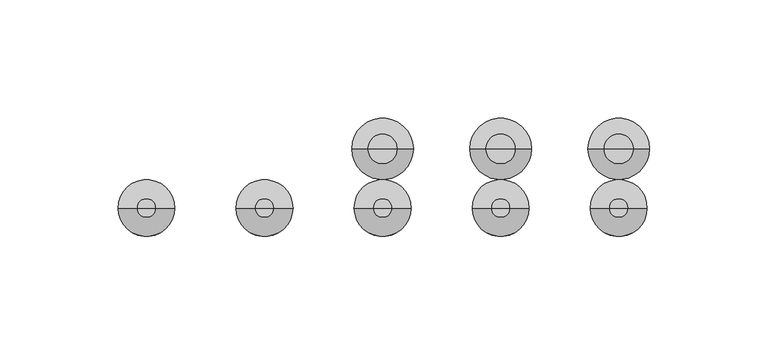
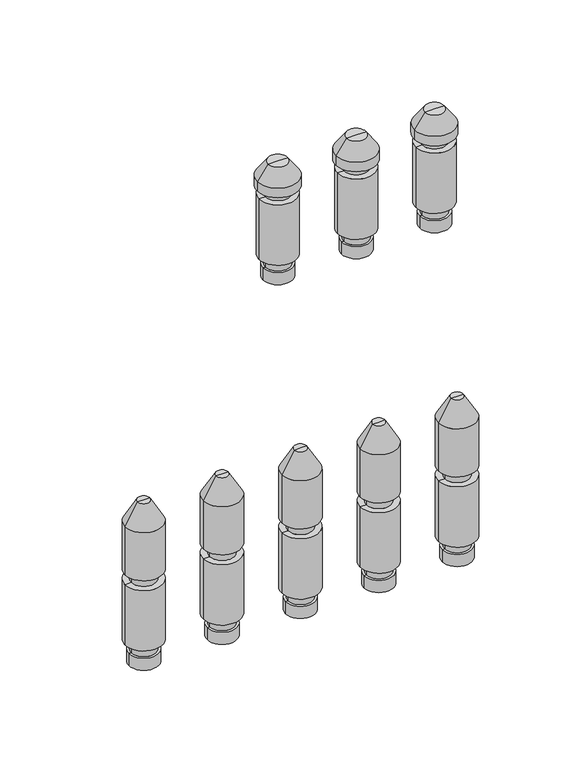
"""IFC4 building model written with IfcOpenShell, lengths in millimetres: valve geometry, PL CZ_Manifold_FT-VA : 13 circuits."""

from ifc_helpers import new_model, si_unit, frame, origin, place, context, project, spatial, polyline, circle_curve, source, transform, mapped, element, save
from ifc_brep_helpers import plane_surface, cylinder_surface, revolved_surface, advanced_brep


def valve_2908c385(model_context):
    return source(origin(), model_context, "Body", "AdvancedBrep", [
        advanced_brep(
        [(578.5, 0.0, -35.11267), (597.5, 0.0, -35.11267), (588.0, 0.0, -35.11267), (578.5, 0.0, -27.0369646), (597.5, 0.0, -27.0369646), (580.0, 0.0, -27.0369646), (596.0, 0.0, -27.0369646), (580.0, 0.0, -20.330253), (596.0, 0.0, -20.330253), (576.0, 0.0, -20.330253), (600.0, 0.0, -20.330253), (576.0, 0.0, 20.330253), (600.0, 0.0, 20.330253), (580.0, 0.0, 20.330253), (596.0, 0.0, 20.330253), (580.0, 0.0, 27.0474786), (596.0, 0.0, 27.0474786), (576.0, 0.0, 27.0474786), (600.0, 0.0, 27.0474786), (576.0, 0.0, 59.4084325), (600.0, 0.0, 59.4084325), (584.0, 0.0, 73.264839), (592.0, 0.0, 73.264839), (588.0, 0.0, 73.264839)],
        [
            (0, 1, circle_curve(frame((588.0, 0.0, -35.11267), z_axis=(0.0, 0.0, -1.0), x_axis=(1.0, 0.0, 0.0)), 9.5)),
            (1, 2),
            (2, 0),
            (1, 0, circle_curve(frame((588.0, 0.0, -35.11267), z_axis=(0.0, 0.0, -1.0), x_axis=(1.0, 0.0, 0.0)), 9.5)),
            (3, 4, circle_curve(frame((588.0, 0.0, -27.0369646), z_axis=(0.0, 0.0, -1.0), x_axis=(1.0, 0.0, 0.0)), 9.5)),
            (4, 1),
            (0, 3),
            (4, 3, circle_curve(frame((588.0, 0.0, -27.0369646), z_axis=(0.0, 0.0, -1.0), x_axis=(1.0, 0.0, 0.0)), 9.5)),
            (5, 6, circle_curve(frame((588.0, 0.0, -27.0369646), z_axis=(0.0, 0.0, -1.0), x_axis=(1.0, 0.0, 0.0)), 8.0)),
            (6, 4),
            (3, 5),
            (6, 5, circle_curve(frame((588.0, 0.0, -27.0369646), z_axis=(0.0, 0.0, -1.0), x_axis=(1.0, 0.0, 0.0)), 8.0)),
            (7, 8, circle_curve(frame((588.0, 0.0, -20.330253), z_axis=(0.0, 0.0, -1.0), x_axis=(1.0, 0.0, 0.0)), 8.0)),
            (8, 6),
            (5, 7),
            (8, 7, circle_curve(frame((588.0, 0.0, -20.330253), z_axis=(0.0, 0.0, -1.0), x_axis=(1.0, 0.0, 0.0)), 8.0)),
            (9, 10, circle_curve(frame((588.0, 0.0, -20.330253), z_axis=(0.0, 0.0, -1.0), x_axis=(1.0, 0.0, 0.0)), 12.0)),
            (10, 8),
            (7, 9),
            (10, 9, circle_curve(frame((588.0, 0.0, -20.330253), z_axis=(0.0, 0.0, -1.0), x_axis=(1.0, 0.0, 0.0)), 12.0)),
            (11, 12, circle_curve(frame((588.0, 0.0, 20.330253), z_axis=(0.0, 0.0, -1.0), x_axis=(1.0, 0.0, 0.0)), 12.0)),
            (12, 10),
            (9, 11),
            (12, 11, circle_curve(frame((588.0, 0.0, 20.330253), z_axis=(0.0, 0.0, -1.0), x_axis=(1.0, 0.0, 0.0)), 12.0)),
            (13, 14, circle_curve(frame((588.0, 0.0, 20.330253), z_axis=(0.0, 0.0, -1.0), x_axis=(1.0, 0.0, 0.0)), 8.0)),
            (14, 12),
            (11, 13),
            (14, 13, circle_curve(frame((588.0, 0.0, 20.330253), z_axis=(0.0, 0.0, -1.0), x_axis=(1.0, 0.0, 0.0)), 8.0)),
            (15, 16, circle_curve(frame((588.0, 0.0, 27.0474786), z_axis=(0.0, 0.0, -1.0), x_axis=(1.0, 0.0, 0.0)), 8.0)),
            (16, 14),
            (13, 15),
            (16, 15, circle_curve(frame((588.0, 0.0, 27.0474786), z_axis=(0.0, 0.0, -1.0), x_axis=(1.0, 0.0, 0.0)), 8.0)),
            (17, 18, circle_curve(frame((588.0, 0.0, 27.0474786), z_axis=(0.0, 0.0, -1.0), x_axis=(1.0, 0.0, 0.0)), 12.0)),
            (18, 16),
            (15, 17),
            (18, 17, circle_curve(frame((588.0, 0.0, 27.0474786), z_axis=(0.0, 0.0, -1.0), x_axis=(1.0, 0.0, 0.0)), 12.0)),
            (19, 20, circle_curve(frame((588.0, 0.0, 59.4084325), z_axis=(0.0, 0.0, -1.0), x_axis=(1.0, 0.0, 0.0)), 12.0)),
            (20, 18),
            (17, 19),
            (20, 19, circle_curve(frame((588.0, 0.0, 59.4084325), z_axis=(0.0, 0.0, -1.0), x_axis=(1.0, 0.0, 0.0)), 12.0)),
            (21, 22, circle_curve(frame((588.0, 0.0, 73.264839), z_axis=(0.0, 0.0, -1.0), x_axis=(1.0, 0.0, 0.0)), 4.0)),
            (22, 20),
            (19, 21),
            (22, 21, circle_curve(frame((588.0, 0.0, 73.264839), z_axis=(0.0, 0.0, -1.0), x_axis=(1.0, 0.0, 0.0)), 4.0)),
            (23, 22),
            (21, 23),
        ],
        [
            plane_surface(frame((588.0, 0.0, -35.11267), z_axis=(0.0, 0.0, -1.0), x_axis=(1.0, 0.0, 0.0))),
            cylinder_surface(frame((588.0, 0.0, 58.264839), z_axis=(0.0, 0.0, 1.0), x_axis=(1.0, 0.0, 0.0)), 9.5),
            plane_surface(frame((588.0, 0.0, -27.0369646), z_axis=(0.0, 0.0, 1.0), x_axis=(1.0, 0.0, 0.0))),
            cylinder_surface(frame((588.0, 0.0, 58.264839), z_axis=(0.0, 0.0, 1.0), x_axis=(1.0, 0.0, 0.0)), 8.0),
            plane_surface(frame((588.0, 0.0, -20.330253), z_axis=(0.0, 0.0, -1.0), x_axis=(1.0, 0.0, 0.0))),
            cylinder_surface(frame((588.0, 0.0, 58.264839), z_axis=(0.0, 0.0, 1.0), x_axis=(1.0, 0.0, 0.0)), 12.0),
            plane_surface(frame((588.0, 0.0, 20.330253), z_axis=(0.0, 0.0, 1.0), x_axis=(1.0, 0.0, 0.0))),
            plane_surface(frame((588.0, 0.0, 27.0474786), z_axis=(0.0, 0.0, -1.0), x_axis=(1.0, 0.0, 0.0))),
            revolved_surface(polyline([(600.0, 0.0, 59.4084325), (592.0, 0.0, 73.264839)]), (588.0, 0.0, 58.264839), (0.0, 0.0, 1.0)),
            plane_surface(frame((588.0, 0.0, 73.264839), z_axis=(0.0, 0.0, 1.0), x_axis=(1.0, 0.0, 0.0))),
        ],
        [
            (0, [[1, 2, 3]]),
            (0, [[4, -3, -2]]),
            (1, [[5, 6, -1, 7]]),
            (1, [[8, -7, -4, -6]]),
            (2, [[9, 10, -5, 11]]),
            (2, [[12, -11, -8, -10]]),
            (3, [[13, 14, -9, 15]]),
            (3, [[16, -15, -12, -14]]),
            (4, [[17, 18, -13, 19]]),
            (4, [[20, -19, -16, -18]]),
            (5, [[21, 22, -17, 23]]),
            (5, [[24, -23, -20, -22]]),
            (6, [[25, 26, -21, 27]]),
            (6, [[28, -27, -24, -26]]),
            (3, [[29, 30, -25, 31]]),
            (3, [[32, -31, -28, -30]]),
            (7, [[33, 34, -29, 35]]),
            (7, [[36, -35, -32, -34]]),
            (5, [[37, 38, -33, 39]]),
            (5, [[40, -39, -36, -38]]),
            (8, [[41, 42, -37, 43]]),
            (8, [[44, -43, -40, -42]]),
            (9, [[45, -41, 46]]),
            (9, [[-46, -44, -45]]),
        ],
    ),
        advanced_brep(
        [(528.5, 0.0, -35.11267), (547.5, 0.0, -35.11267), (538.0, 0.0, -35.11267), (528.5, 0.0, -27.0369646), (547.5, 0.0, -27.0369646), (530.0, 0.0, -27.0369646), (546.0, 0.0, -27.0369646), (530.0, 0.0, -20.330253), (546.0, 0.0, -20.330253), (526.0, 0.0, -20.330253), (550.0, 0.0, -20.330253), (526.0, 0.0, 20.330253), (550.0, 0.0, 20.330253), (530.0, 0.0, 20.330253), (546.0, 0.0, 20.330253), (530.0, 0.0, 27.0474786), (546.0, 0.0, 27.0474786), (526.0, 0.0, 27.0474786), (550.0, 0.0, 27.0474786), (526.0, 0.0, 59.4084325), (550.0, 0.0, 59.4084325), (534.0, 0.0, 73.264839), (542.0, 0.0, 73.264839), (538.0, 0.0, 73.264839)],
        [
            (0, 1, circle_curve(frame((538.0, 0.0, -35.11267), z_axis=(0.0, 0.0, -1.0), x_axis=(1.0, 0.0, 0.0)), 9.5)),
            (1, 2),
            (2, 0),
            (1, 0, circle_curve(frame((538.0, 0.0, -35.11267), z_axis=(0.0, 0.0, -1.0), x_axis=(1.0, 0.0, 0.0)), 9.5)),
            (3, 4, circle_curve(frame((538.0, 0.0, -27.0369646), z_axis=(0.0, 0.0, -1.0), x_axis=(1.0, 0.0, 0.0)), 9.5)),
            (4, 1),
            (0, 3),
            (4, 3, circle_curve(frame((538.0, 0.0, -27.0369646), z_axis=(0.0, 0.0, -1.0), x_axis=(1.0, 0.0, 0.0)), 9.5)),
            (5, 6, circle_curve(frame((538.0, 0.0, -27.0369646), z_axis=(0.0, 0.0, -1.0), x_axis=(1.0, 0.0, 0.0)), 8.0)),
            (6, 4),
            (3, 5),
            (6, 5, circle_curve(frame((538.0, 0.0, -27.0369646), z_axis=(0.0, 0.0, -1.0), x_axis=(1.0, 0.0, 0.0)), 8.0)),
            (7, 8, circle_curve(frame((538.0, 0.0, -20.330253), z_axis=(0.0, 0.0, -1.0), x_axis=(1.0, 0.0, 0.0)), 8.0)),
            (8, 6),
            (5, 7),
            (8, 7, circle_curve(frame((538.0, 0.0, -20.330253), z_axis=(0.0, 0.0, -1.0), x_axis=(1.0, 0.0, 0.0)), 8.0)),
            (9, 10, circle_curve(frame((538.0, 0.0, -20.330253), z_axis=(0.0, 0.0, -1.0), x_axis=(1.0, 0.0, 0.0)), 12.0)),
            (10, 8),
            (7, 9),
            (10, 9, circle_curve(frame((538.0, 0.0, -20.330253), z_axis=(0.0, 0.0, -1.0), x_axis=(1.0, 0.0, 0.0)), 12.0)),
            (11, 12, circle_curve(frame((538.0, 0.0, 20.330253), z_axis=(0.0, 0.0, -1.0), x_axis=(1.0, 0.0, 0.0)), 12.0)),
            (12, 10),
            (9, 11),
            (12, 11, circle_curve(frame((538.0, 0.0, 20.330253), z_axis=(0.0, 0.0, -1.0), x_axis=(1.0, 0.0, 0.0)), 12.0)),
            (13, 14, circle_curve(frame((538.0, 0.0, 20.330253), z_axis=(0.0, 0.0, -1.0), x_axis=(1.0, 0.0, 0.0)), 8.0)),
            (14, 12),
            (11, 13),
            (14, 13, circle_curve(frame((538.0, 0.0, 20.330253), z_axis=(0.0, 0.0, -1.0), x_axis=(1.0, 0.0, 0.0)), 8.0)),
            (15, 16, circle_curve(frame((538.0, 0.0, 27.0474786), z_axis=(0.0, 0.0, -1.0), x_axis=(1.0, 0.0, 0.0)), 8.0)),
            (16, 14),
            (13, 15),
            (16, 15, circle_curve(frame((538.0, 0.0, 27.0474786), z_axis=(0.0, 0.0, -1.0), x_axis=(1.0, 0.0, 0.0)), 8.0)),
            (17, 18, circle_curve(frame((538.0, 0.0, 27.0474786), z_axis=(0.0, 0.0, -1.0), x_axis=(1.0, 0.0, 0.0)), 12.0)),
            (18, 16),
            (15, 17),
            (18, 17, circle_curve(frame((538.0, 0.0, 27.0474786), z_axis=(0.0, 0.0, -1.0), x_axis=(1.0, 0.0, 0.0)), 12.0)),
            (19, 20, circle_curve(frame((538.0, 0.0, 59.4084325), z_axis=(0.0, 0.0, -1.0), x_axis=(1.0, 0.0, 0.0)), 12.0)),
            (20, 18),
            (17, 19),
            (20, 19, circle_curve(frame((538.0, 0.0, 59.4084325), z_axis=(0.0, 0.0, -1.0), x_axis=(1.0, 0.0, 0.0)), 12.0)),
            (21, 22, circle_curve(frame((538.0, 0.0, 73.264839), z_axis=(0.0, 0.0, -1.0), x_axis=(1.0, 0.0, 0.0)), 4.0)),
            (22, 20),
            (19, 21),
            (22, 21, circle_curve(frame((538.0, 0.0, 73.264839), z_axis=(0.0, 0.0, -1.0), x_axis=(1.0, 0.0, 0.0)), 4.0)),
            (23, 22),
            (21, 23),
        ],
        [
            plane_surface(frame((538.0, 0.0, -35.11267), z_axis=(0.0, 0.0, -1.0), x_axis=(1.0, 0.0, 0.0))),
            cylinder_surface(frame((538.0, 0.0, 58.264839), z_axis=(0.0, 0.0, 1.0), x_axis=(1.0, 0.0, 0.0)), 9.5),
            plane_surface(frame((538.0, 0.0, -27.0369646), z_axis=(0.0, 0.0, 1.0), x_axis=(1.0, 0.0, 0.0))),
            cylinder_surface(frame((538.0, 0.0, 58.264839), z_axis=(0.0, 0.0, 1.0), x_axis=(1.0, 0.0, 0.0)), 8.0),
            plane_surface(frame((538.0, 0.0, -20.330253), z_axis=(0.0, 0.0, -1.0), x_axis=(1.0, 0.0, 0.0))),
            cylinder_surface(frame((538.0, 0.0, 58.264839), z_axis=(0.0, 0.0, 1.0), x_axis=(1.0, 0.0, 0.0)), 12.0),
            plane_surface(frame((538.0, 0.0, 20.330253), z_axis=(0.0, 0.0, 1.0), x_axis=(1.0, 0.0, 0.0))),
            plane_surface(frame((538.0, 0.0, 27.0474786), z_axis=(0.0, 0.0, -1.0), x_axis=(1.0, 0.0, 0.0))),
            revolved_surface(polyline([(550.0, 0.0, 59.4084325), (542.0, 0.0, 73.264839)]), (538.0, 0.0, 58.264839), (0.0, 0.0, 1.0)),
            plane_surface(frame((538.0, 0.0, 73.264839), z_axis=(0.0, 0.0, 1.0), x_axis=(1.0, 0.0, 0.0))),
        ],
        [
            (0, [[1, 2, 3]]),
            (0, [[4, -3, -2]]),
            (1, [[5, 6, -1, 7]]),
            (1, [[8, -7, -4, -6]]),
            (2, [[9, 10, -5, 11]]),
            (2, [[12, -11, -8, -10]]),
            (3, [[13, 14, -9, 15]]),
            (3, [[16, -15, -12, -14]]),
            (4, [[17, 18, -13, 19]]),
            (4, [[20, -19, -16, -18]]),
            (5, [[21, 22, -17, 23]]),
            (5, [[24, -23, -20, -22]]),
            (6, [[25, 26, -21, 27]]),
            (6, [[28, -27, -24, -26]]),
            (3, [[29, 30, -25, 31]]),
            (3, [[32, -31, -28, -30]]),
            (7, [[33, 34, -29, 35]]),
            (7, [[36, -35, -32, -34]]),
            (5, [[37, 38, -33, 39]]),
            (5, [[40, -39, -36, -38]]),
            (8, [[41, 42, -37, 43]]),
            (8, [[44, -43, -40, -42]]),
            (9, [[45, -41, 46]]),
            (9, [[-46, -44, -45]]),
        ],
    ),
        advanced_brep(
        [(478.5, 0.0, -35.11267), (497.5, 0.0, -35.11267), (488.0, 0.0, -35.11267), (478.5, 0.0, -27.0369646), (497.5, 0.0, -27.0369646), (480.0, 0.0, -27.0369646), (496.0, 0.0, -27.0369646), (480.0, 0.0, -20.330253), (496.0, 0.0, -20.330253), (476.0, 0.0, -20.330253), (500.0, 0.0, -20.330253), (476.0, 0.0, 20.330253), (500.0, 0.0, 20.330253), (480.0, 0.0, 20.330253), (496.0, 0.0, 20.330253), (480.0, 0.0, 27.0474786), (496.0, 0.0, 27.0474786), (476.0, 0.0, 27.0474786), (500.0, 0.0, 27.0474786), (476.0, 0.0, 59.4084325), (500.0, 0.0, 59.4084325), (484.0, 0.0, 73.264839), (492.0, 0.0, 73.264839), (488.0, 0.0, 73.264839)],
        [
            (0, 1, circle_curve(frame((488.0, 0.0, -35.11267), z_axis=(0.0, 0.0, -1.0), x_axis=(1.0, 0.0, 0.0)), 9.5)),
            (1, 2),
            (2, 0),
            (1, 0, circle_curve(frame((488.0, 0.0, -35.11267), z_axis=(0.0, 0.0, -1.0), x_axis=(1.0, 0.0, 0.0)), 9.5)),
            (3, 4, circle_curve(frame((488.0, 0.0, -27.0369646), z_axis=(0.0, 0.0, -1.0), x_axis=(1.0, 0.0, 0.0)), 9.5)),
            (4, 1),
            (0, 3),
            (4, 3, circle_curve(frame((488.0, 0.0, -27.0369646), z_axis=(0.0, 0.0, -1.0), x_axis=(1.0, 0.0, 0.0)), 9.5)),
            (5, 6, circle_curve(frame((488.0, 0.0, -27.0369646), z_axis=(0.0, 0.0, -1.0), x_axis=(1.0, 0.0, 0.0)), 8.0)),
            (6, 4),
            (3, 5),
            (6, 5, circle_curve(frame((488.0, 0.0, -27.0369646), z_axis=(0.0, 0.0, -1.0), x_axis=(1.0, 0.0, 0.0)), 8.0)),
            (7, 8, circle_curve(frame((488.0, 0.0, -20.330253), z_axis=(0.0, 0.0, -1.0), x_axis=(1.0, 0.0, 0.0)), 8.0)),
            (8, 6),
            (5, 7),
            (8, 7, circle_curve(frame((488.0, 0.0, -20.330253), z_axis=(0.0, 0.0, -1.0), x_axis=(1.0, 0.0, 0.0)), 8.0)),
            (9, 10, circle_curve(frame((488.0, 0.0, -20.330253), z_axis=(0.0, 0.0, -1.0), x_axis=(1.0, 0.0, 0.0)), 12.0)),
            (10, 8),
            (7, 9),
            (10, 9, circle_curve(frame((488.0, 0.0, -20.330253), z_axis=(0.0, 0.0, -1.0), x_axis=(1.0, 0.0, 0.0)), 12.0)),
            (11, 12, circle_curve(frame((488.0, 0.0, 20.330253), z_axis=(0.0, 0.0, -1.0), x_axis=(1.0, 0.0, 0.0)), 12.0)),
            (12, 10),
            (9, 11),
            (12, 11, circle_curve(frame((488.0, 0.0, 20.330253), z_axis=(0.0, 0.0, -1.0), x_axis=(1.0, 0.0, 0.0)), 12.0)),
            (13, 14, circle_curve(frame((488.0, 0.0, 20.330253), z_axis=(0.0, 0.0, -1.0), x_axis=(1.0, 0.0, 0.0)), 8.0)),
            (14, 12),
            (11, 13),
            (14, 13, circle_curve(frame((488.0, 0.0, 20.330253), z_axis=(0.0, 0.0, -1.0), x_axis=(1.0, 0.0, 0.0)), 8.0)),
            (15, 16, circle_curve(frame((488.0, 0.0, 27.0474786), z_axis=(0.0, 0.0, -1.0), x_axis=(1.0, 0.0, 0.0)), 8.0)),
            (16, 14),
            (13, 15),
            (16, 15, circle_curve(frame((488.0, 0.0, 27.0474786), z_axis=(0.0, 0.0, -1.0), x_axis=(1.0, 0.0, 0.0)), 8.0)),
            (17, 18, circle_curve(frame((488.0, 0.0, 27.0474786), z_axis=(0.0, 0.0, -1.0), x_axis=(1.0, 0.0, 0.0)), 12.0)),
            (18, 16),
            (15, 17),
            (18, 17, circle_curve(frame((488.0, 0.0, 27.0474786), z_axis=(0.0, 0.0, -1.0), x_axis=(1.0, 0.0, 0.0)), 12.0)),
            (19, 20, circle_curve(frame((488.0, 0.0, 59.4084325), z_axis=(0.0, 0.0, -1.0), x_axis=(1.0, 0.0, 0.0)), 12.0)),
            (20, 18),
            (17, 19),
            (20, 19, circle_curve(frame((488.0, 0.0, 59.4084325), z_axis=(0.0, 0.0, -1.0), x_axis=(1.0, 0.0, 0.0)), 12.0)),
            (21, 22, circle_curve(frame((488.0, 0.0, 73.264839), z_axis=(0.0, 0.0, -1.0), x_axis=(1.0, 0.0, 0.0)), 4.0)),
            (22, 20),
            (19, 21),
            (22, 21, circle_curve(frame((488.0, 0.0, 73.264839), z_axis=(0.0, 0.0, -1.0), x_axis=(1.0, 0.0, 0.0)), 4.0)),
            (23, 22),
            (21, 23),
        ],
        [
            plane_surface(frame((488.0, 0.0, -35.11267), z_axis=(0.0, 0.0, -1.0), x_axis=(1.0, 0.0, 0.0))),
            cylinder_surface(frame((488.0, 0.0, 58.264839), z_axis=(0.0, 0.0, 1.0), x_axis=(1.0, 0.0, 0.0)), 9.5),
            plane_surface(frame((488.0, 0.0, -27.0369646), z_axis=(0.0, 0.0, 1.0), x_axis=(1.0, 0.0, 0.0))),
            cylinder_surface(frame((488.0, 0.0, 58.264839), z_axis=(0.0, 0.0, 1.0), x_axis=(1.0, 0.0, 0.0)), 8.0),
            plane_surface(frame((488.0, 0.0, -20.330253), z_axis=(0.0, 0.0, -1.0), x_axis=(1.0, 0.0, 0.0))),
            cylinder_surface(frame((488.0, 0.0, 58.264839), z_axis=(0.0, 0.0, 1.0), x_axis=(1.0, 0.0, 0.0)), 12.0),
            plane_surface(frame((488.0, 0.0, 20.330253), z_axis=(0.0, 0.0, 1.0), x_axis=(1.0, 0.0, 0.0))),
            plane_surface(frame((488.0, 0.0, 27.0474786), z_axis=(0.0, 0.0, -1.0), x_axis=(1.0, 0.0, 0.0))),
            revolved_surface(polyline([(500.0, 0.0, 59.4084325), (492.0, 0.0, 73.264839)]), (488.0, 0.0, 58.264839), (0.0, 0.0, 1.0)),
            plane_surface(frame((488.0, 0.0, 73.264839), z_axis=(0.0, 0.0, 1.0), x_axis=(1.0, 0.0, 0.0))),
        ],
        [
            (0, [[1, 2, 3]]),
            (0, [[4, -3, -2]]),
            (1, [[5, 6, -1, 7]]),
            (1, [[8, -7, -4, -6]]),
            (2, [[9, 10, -5, 11]]),
            (2, [[12, -11, -8, -10]]),
            (3, [[13, 14, -9, 15]]),
            (3, [[16, -15, -12, -14]]),
            (4, [[17, 18, -13, 19]]),
            (4, [[20, -19, -16, -18]]),
            (5, [[21, 22, -17, 23]]),
            (5, [[24, -23, -20, -22]]),
            (6, [[25, 26, -21, 27]]),
            (6, [[28, -27, -24, -26]]),
            (3, [[29, 30, -25, 31]]),
            (3, [[32, -31, -28, -30]]),
            (7, [[33, 34, -29, 35]]),
            (7, [[36, -35, -32, -34]]),
            (5, [[37, 38, -33, 39]]),
            (5, [[40, -39, -36, -38]]),
            (8, [[41, 42, -37, 43]]),
            (8, [[44, -43, -40, -42]]),
            (9, [[45, -41, 46]]),
            (9, [[-46, -44, -45]]),
        ],
    ),
        advanced_brep(
        [(578.5, 25.0, 174.88733), (597.5, 25.0, 174.88733), (588.0, 25.0, 174.88733), (578.5, 25.0, 182.9630354), (597.5, 25.0, 182.9630354), (580.0, 25.0, 182.9630354), (596.0, 25.0, 182.9630354), (580.0, 25.0, 189.669747), (596.0, 25.0, 189.669747), (576.0, 25.0, 189.669747), (600.0, 25.0, 189.669747), (576.0, 25.0, 230.330253), (600.0, 25.0, 230.330253), (580.0, 25.0, 230.330253), (596.0, 25.0, 230.330253), (580.0, 25.0, 236.0474786), (596.0, 25.0, 236.0474786), (575.0, 25.0, 236.0474786), (601.0, 25.0, 236.0474786), (575.0, 25.0, 242.337955), (601.0, 25.0, 242.337955), (581.6551779, 25.0, 251.842534), (594.3448221, 25.0, 251.842534), (588.0, 25.0, 251.842534)],
        [
            (0, 1, circle_curve(frame((588.0, 25.0, 174.88733), z_axis=(0.0, 0.0, -1.0), x_axis=(1.0, 0.0, 0.0)), 9.5)),
            (1, 2),
            (2, 0),
            (1, 0, circle_curve(frame((588.0, 25.0, 174.88733), z_axis=(0.0, 0.0, -1.0), x_axis=(1.0, 0.0, 0.0)), 9.5)),
            (3, 4, circle_curve(frame((588.0, 25.0, 182.9630354), z_axis=(0.0, 0.0, -1.0), x_axis=(1.0, 0.0, 0.0)), 9.5)),
            (4, 1),
            (0, 3),
            (4, 3, circle_curve(frame((588.0, 25.0, 182.9630354), z_axis=(0.0, 0.0, -1.0), x_axis=(1.0, 0.0, 0.0)), 9.5)),
            (5, 6, circle_curve(frame((588.0, 25.0, 182.9630354), z_axis=(0.0, 0.0, -1.0), x_axis=(1.0, 0.0, 0.0)), 8.0)),
            (6, 4),
            (3, 5),
            (6, 5, circle_curve(frame((588.0, 25.0, 182.9630354), z_axis=(0.0, 0.0, -1.0), x_axis=(1.0, 0.0, 0.0)), 8.0)),
            (7, 8, circle_curve(frame((588.0, 25.0, 189.669747), z_axis=(0.0, 0.0, -1.0), x_axis=(1.0, 0.0, 0.0)), 8.0)),
            (8, 6),
            (5, 7),
            (8, 7, circle_curve(frame((588.0, 25.0, 189.669747), z_axis=(0.0, 0.0, -1.0), x_axis=(1.0, 0.0, 0.0)), 8.0)),
            (9, 10, circle_curve(frame((588.0, 25.0, 189.669747), z_axis=(0.0, 0.0, -1.0), x_axis=(1.0, 0.0, 0.0)), 12.0)),
            (10, 8),
            (7, 9),
            (10, 9, circle_curve(frame((588.0, 25.0, 189.669747), z_axis=(0.0, 0.0, -1.0), x_axis=(1.0, 0.0, 0.0)), 12.0)),
            (11, 12, circle_curve(frame((588.0, 25.0, 230.330253), z_axis=(0.0, 0.0, -1.0), x_axis=(1.0, 0.0, 0.0)), 12.0)),
            (12, 10),
            (9, 11),
            (12, 11, circle_curve(frame((588.0, 25.0, 230.330253), z_axis=(0.0, 0.0, -1.0), x_axis=(1.0, 0.0, 0.0)), 12.0)),
            (13, 14, circle_curve(frame((588.0, 25.0, 230.330253), z_axis=(0.0, 0.0, -1.0), x_axis=(1.0, 0.0, 0.0)), 8.0)),
            (14, 12),
            (11, 13),
            (14, 13, circle_curve(frame((588.0, 25.0, 230.330253), z_axis=(0.0, 0.0, -1.0), x_axis=(1.0, 0.0, 0.0)), 8.0)),
            (15, 16, circle_curve(frame((588.0, 25.0, 236.0474786), z_axis=(0.0, 0.0, -1.0), x_axis=(1.0, 0.0, 0.0)), 8.0)),
            (16, 14),
            (13, 15),
            (16, 15, circle_curve(frame((588.0, 25.0, 236.0474786), z_axis=(0.0, 0.0, -1.0), x_axis=(1.0, 0.0, 0.0)), 8.0)),
            (17, 18, circle_curve(frame((588.0, 25.0, 236.0474786), z_axis=(0.0, 0.0, -1.0), x_axis=(1.0, 0.0, 0.0)), 13.0)),
            (18, 16),
            (15, 17),
            (18, 17, circle_curve(frame((588.0, 25.0, 236.0474786), z_axis=(0.0, 0.0, -1.0), x_axis=(1.0, 0.0, 0.0)), 13.0)),
            (19, 20, circle_curve(frame((588.0, 25.0, 242.337955), z_axis=(0.0, 0.0, -1.0), x_axis=(1.0, 0.0, 0.0)), 13.0)),
            (20, 18),
            (17, 19),
            (20, 19, circle_curve(frame((588.0, 25.0, 242.337955), z_axis=(0.0, 0.0, -1.0), x_axis=(1.0, 0.0, 0.0)), 13.0)),
            (21, 22, circle_curve(frame((588.0, 25.0, 251.842534), z_axis=(0.0, 0.0, -1.0), x_axis=(1.0, 0.0, 0.0)), 6.3448221)),
            (22, 20),
            (19, 21),
            (22, 21, circle_curve(frame((588.0, 25.0, 251.842534), z_axis=(0.0, 0.0, -1.0), x_axis=(1.0, 0.0, 0.0)), 6.3448221)),
            (23, 22),
            (21, 23),
        ],
        [
            plane_surface(frame((588.0, 25.0, 174.88733), z_axis=(0.0, 0.0, -1.0), x_axis=(1.0, 0.0, 0.0))),
            cylinder_surface(frame((588.0, 25.0, 247.7026565), z_axis=(0.0, 0.0, 1.0), x_axis=(1.0, 0.0, 0.0)), 9.5),
            plane_surface(frame((588.0, 25.0, 182.9630354), z_axis=(0.0, 0.0, 1.0), x_axis=(1.0, 0.0, 0.0))),
            cylinder_surface(frame((588.0, 25.0, 247.7026565), z_axis=(0.0, 0.0, 1.0), x_axis=(1.0, 0.0, 0.0)), 8.0),
            plane_surface(frame((588.0, 25.0, 189.669747), z_axis=(0.0, 0.0, -1.0), x_axis=(1.0, 0.0, 0.0))),
            cylinder_surface(frame((588.0, 25.0, 247.7026565), z_axis=(0.0, 0.0, 1.0), x_axis=(1.0, 0.0, 0.0)), 12.0),
            plane_surface(frame((588.0, 25.0, 230.330253), z_axis=(0.0, 0.0, 1.0), x_axis=(1.0, 0.0, 0.0))),
            plane_surface(frame((588.0, 25.0, 236.0474786), z_axis=(0.0, 0.0, -1.0), x_axis=(1.0, 0.0, 0.0))),
            cylinder_surface(frame((588.0, 25.0, 247.7026565), z_axis=(0.0, 0.0, 1.0), x_axis=(1.0, 0.0, 0.0)), 13.0),
            revolved_surface(polyline([(601.0, 25.0, 242.337955), (594.3448221, 25.0, 251.842534)]), (588.0, 25.0, 247.7026565), (0.0, 0.0, 1.0)),
            plane_surface(frame((588.0, 25.0, 251.842534), z_axis=(0.0, 0.0, 1.0), x_axis=(1.0, 0.0, 0.0))),
        ],
        [
            (0, [[1, 2, 3]]),
            (0, [[4, -3, -2]]),
            (1, [[5, 6, -1, 7]]),
            (1, [[8, -7, -4, -6]]),
            (2, [[9, 10, -5, 11]]),
            (2, [[12, -11, -8, -10]]),
            (3, [[13, 14, -9, 15]]),
            (3, [[16, -15, -12, -14]]),
            (4, [[17, 18, -13, 19]]),
            (4, [[20, -19, -16, -18]]),
            (5, [[21, 22, -17, 23]]),
            (5, [[24, -23, -20, -22]]),
            (6, [[25, 26, -21, 27]]),
            (6, [[28, -27, -24, -26]]),
            (3, [[29, 30, -25, 31]]),
            (3, [[32, -31, -28, -30]]),
            (7, [[33, 34, -29, 35]]),
            (7, [[36, -35, -32, -34]]),
            (8, [[37, 38, -33, 39]]),
            (8, [[40, -39, -36, -38]]),
            (9, [[41, 42, -37, 43]]),
            (9, [[44, -43, -40, -42]]),
            (10, [[45, -41, 46]]),
            (10, [[-46, -44, -45]]),
        ],
    ),
        advanced_brep(
        [(528.5, 25.0, 174.88733), (547.5, 25.0, 174.88733), (538.0, 25.0, 174.88733), (528.5, 25.0, 182.9630354), (547.5, 25.0, 182.9630354), (530.0, 25.0, 182.9630354), (546.0, 25.0, 182.9630354), (530.0, 25.0, 189.669747), (546.0, 25.0, 189.669747), (526.0, 25.0, 189.669747), (550.0, 25.0, 189.669747), (526.0, 25.0, 230.330253), (550.0, 25.0, 230.330253), (530.0, 25.0, 230.330253), (546.0, 25.0, 230.330253), (530.0, 25.0, 236.0474786), (546.0, 25.0, 236.0474786), (525.0, 25.0, 236.0474786), (551.0, 25.0, 236.0474786), (525.0, 25.0, 242.337955), (551.0, 25.0, 242.337955), (531.6551779, 25.0, 251.842534), (544.3448221, 25.0, 251.842534), (538.0, 25.0, 251.842534)],
        [
            (0, 1, circle_curve(frame((538.0, 25.0, 174.88733), z_axis=(0.0, 0.0, -1.0), x_axis=(1.0, 0.0, 0.0)), 9.5)),
            (1, 2),
            (2, 0),
            (1, 0, circle_curve(frame((538.0, 25.0, 174.88733), z_axis=(0.0, 0.0, -1.0), x_axis=(1.0, 0.0, 0.0)), 9.5)),
            (3, 4, circle_curve(frame((538.0, 25.0, 182.9630354), z_axis=(0.0, 0.0, -1.0), x_axis=(1.0, 0.0, 0.0)), 9.5)),
            (4, 1),
            (0, 3),
            (4, 3, circle_curve(frame((538.0, 25.0, 182.9630354), z_axis=(0.0, 0.0, -1.0), x_axis=(1.0, 0.0, 0.0)), 9.5)),
            (5, 6, circle_curve(frame((538.0, 25.0, 182.9630354), z_axis=(0.0, 0.0, -1.0), x_axis=(1.0, 0.0, 0.0)), 8.0)),
            (6, 4),
            (3, 5),
            (6, 5, circle_curve(frame((538.0, 25.0, 182.9630354), z_axis=(0.0, 0.0, -1.0), x_axis=(1.0, 0.0, 0.0)), 8.0)),
            (7, 8, circle_curve(frame((538.0, 25.0, 189.669747), z_axis=(0.0, 0.0, -1.0), x_axis=(1.0, 0.0, 0.0)), 8.0)),
            (8, 6),
            (5, 7),
            (8, 7, circle_curve(frame((538.0, 25.0, 189.669747), z_axis=(0.0, 0.0, -1.0), x_axis=(1.0, 0.0, 0.0)), 8.0)),
            (9, 10, circle_curve(frame((538.0, 25.0, 189.669747), z_axis=(0.0, 0.0, -1.0), x_axis=(1.0, 0.0, 0.0)), 12.0)),
            (10, 8),
            (7, 9),
            (10, 9, circle_curve(frame((538.0, 25.0, 189.669747), z_axis=(0.0, 0.0, -1.0), x_axis=(1.0, 0.0, 0.0)), 12.0)),
            (11, 12, circle_curve(frame((538.0, 25.0, 230.330253), z_axis=(0.0, 0.0, -1.0), x_axis=(1.0, 0.0, 0.0)), 12.0)),
            (12, 10),
            (9, 11),
            (12, 11, circle_curve(frame((538.0, 25.0, 230.330253), z_axis=(0.0, 0.0, -1.0), x_axis=(1.0, 0.0, 0.0)), 12.0)),
            (13, 14, circle_curve(frame((538.0, 25.0, 230.330253), z_axis=(0.0, 0.0, -1.0), x_axis=(1.0, 0.0, 0.0)), 8.0)),
            (14, 12),
            (11, 13),
            (14, 13, circle_curve(frame((538.0, 25.0, 230.330253), z_axis=(0.0, 0.0, -1.0), x_axis=(1.0, 0.0, 0.0)), 8.0)),
            (15, 16, circle_curve(frame((538.0, 25.0, 236.0474786), z_axis=(0.0, 0.0, -1.0), x_axis=(1.0, 0.0, 0.0)), 8.0)),
            (16, 14),
            (13, 15),
            (16, 15, circle_curve(frame((538.0, 25.0, 236.0474786), z_axis=(0.0, 0.0, -1.0), x_axis=(1.0, 0.0, 0.0)), 8.0)),
            (17, 18, circle_curve(frame((538.0, 25.0, 236.0474786), z_axis=(0.0, 0.0, -1.0), x_axis=(1.0, 0.0, 0.0)), 13.0)),
            (18, 16),
            (15, 17),
            (18, 17, circle_curve(frame((538.0, 25.0, 236.0474786), z_axis=(0.0, 0.0, -1.0), x_axis=(1.0, 0.0, 0.0)), 13.0)),
            (19, 20, circle_curve(frame((538.0, 25.0, 242.337955), z_axis=(0.0, 0.0, -1.0), x_axis=(1.0, 0.0, 0.0)), 13.0)),
            (20, 18),
            (17, 19),
            (20, 19, circle_curve(frame((538.0, 25.0, 242.337955), z_axis=(0.0, 0.0, -1.0), x_axis=(1.0, 0.0, 0.0)), 13.0)),
            (21, 22, circle_curve(frame((538.0, 25.0, 251.842534), z_axis=(0.0, 0.0, -1.0), x_axis=(1.0, 0.0, 0.0)), 6.3448221)),
            (22, 20),
            (19, 21),
            (22, 21, circle_curve(frame((538.0, 25.0, 251.842534), z_axis=(0.0, 0.0, -1.0), x_axis=(1.0, 0.0, 0.0)), 6.3448221)),
            (23, 22),
            (21, 23),
        ],
        [
            plane_surface(frame((538.0, 25.0, 174.88733), z_axis=(0.0, 0.0, -1.0), x_axis=(1.0, 0.0, 0.0))),
            cylinder_surface(frame((538.0, 25.0, 247.7026565), z_axis=(0.0, 0.0, 1.0), x_axis=(1.0, 0.0, 0.0)), 9.5),
            plane_surface(frame((538.0, 25.0, 182.9630354), z_axis=(0.0, 0.0, 1.0), x_axis=(1.0, 0.0, 0.0))),
            cylinder_surface(frame((538.0, 25.0, 247.7026565), z_axis=(0.0, 0.0, 1.0), x_axis=(1.0, 0.0, 0.0)), 8.0),
            plane_surface(frame((538.0, 25.0, 189.669747), z_axis=(0.0, 0.0, -1.0), x_axis=(1.0, 0.0, 0.0))),
            cylinder_surface(frame((538.0, 25.0, 247.7026565), z_axis=(0.0, 0.0, 1.0), x_axis=(1.0, 0.0, 0.0)), 12.0),
            plane_surface(frame((538.0, 25.0, 230.330253), z_axis=(0.0, 0.0, 1.0), x_axis=(1.0, 0.0, 0.0))),
            plane_surface(frame((538.0, 25.0, 236.0474786), z_axis=(0.0, 0.0, -1.0), x_axis=(1.0, 0.0, 0.0))),
            cylinder_surface(frame((538.0, 25.0, 247.7026565), z_axis=(0.0, 0.0, 1.0), x_axis=(1.0, 0.0, 0.0)), 13.0),
            revolved_surface(polyline([(551.0, 25.0, 242.337955), (544.3448221, 25.0, 251.842534)]), (538.0, 25.0, 247.7026565), (0.0, 0.0, 1.0)),
            plane_surface(frame((538.0, 25.0, 251.842534), z_axis=(0.0, 0.0, 1.0), x_axis=(1.0, 0.0, 0.0))),
        ],
        [
            (0, [[1, 2, 3]]),
            (0, [[4, -3, -2]]),
            (1, [[5, 6, -1, 7]]),
            (1, [[8, -7, -4, -6]]),
            (2, [[9, 10, -5, 11]]),
            (2, [[12, -11, -8, -10]]),
            (3, [[13, 14, -9, 15]]),
            (3, [[16, -15, -12, -14]]),
            (4, [[17, 18, -13, 19]]),
            (4, [[20, -19, -16, -18]]),
            (5, [[21, 22, -17, 23]]),
            (5, [[24, -23, -20, -22]]),
            (6, [[25, 26, -21, 27]]),
            (6, [[28, -27, -24, -26]]),
            (3, [[29, 30, -25, 31]]),
            (3, [[32, -31, -28, -30]]),
            (7, [[33, 34, -29, 35]]),
            (7, [[36, -35, -32, -34]]),
            (8, [[37, 38, -33, 39]]),
            (8, [[40, -39, -36, -38]]),
            (9, [[41, 42, -37, 43]]),
            (9, [[44, -43, -40, -42]]),
            (10, [[45, -41, 46]]),
            (10, [[-46, -44, -45]]),
        ],
    ),
        advanced_brep(
        [(478.5, 25.0, 174.88733), (497.5, 25.0, 174.88733), (488.0, 25.0, 174.88733), (478.5, 25.0, 182.9630354), (497.5, 25.0, 182.9630354), (480.0, 25.0, 182.9630354), (496.0, 25.0, 182.9630354), (480.0, 25.0, 189.669747), (496.0, 25.0, 189.669747), (476.0, 25.0, 189.669747), (500.0, 25.0, 189.669747), (476.0, 25.0, 230.330253), (500.0, 25.0, 230.330253), (480.0, 25.0, 230.330253), (496.0, 25.0, 230.330253), (480.0, 25.0, 236.0474786), (496.0, 25.0, 236.0474786), (475.0, 25.0, 236.0474786), (501.0, 25.0, 236.0474786), (475.0, 25.0, 242.337955), (501.0, 25.0, 242.337955), (481.6551779, 25.0, 251.842534), (494.3448221, 25.0, 251.842534), (488.0, 25.0, 251.842534)],
        [
            (0, 1, circle_curve(frame((488.0, 25.0, 174.88733), z_axis=(0.0, 0.0, -1.0), x_axis=(1.0, 0.0, 0.0)), 9.5)),
            (1, 2),
            (2, 0),
            (1, 0, circle_curve(frame((488.0, 25.0, 174.88733), z_axis=(0.0, 0.0, -1.0), x_axis=(1.0, 0.0, 0.0)), 9.5)),
            (3, 4, circle_curve(frame((488.0, 25.0, 182.9630354), z_axis=(0.0, 0.0, -1.0), x_axis=(1.0, 0.0, 0.0)), 9.5)),
            (4, 1),
            (0, 3),
            (4, 3, circle_curve(frame((488.0, 25.0, 182.9630354), z_axis=(0.0, 0.0, -1.0), x_axis=(1.0, 0.0, 0.0)), 9.5)),
            (5, 6, circle_curve(frame((488.0, 25.0, 182.9630354), z_axis=(0.0, 0.0, -1.0), x_axis=(1.0, 0.0, 0.0)), 8.0)),
            (6, 4),
            (3, 5),
            (6, 5, circle_curve(frame((488.0, 25.0, 182.9630354), z_axis=(0.0, 0.0, -1.0), x_axis=(1.0, 0.0, 0.0)), 8.0)),
            (7, 8, circle_curve(frame((488.0, 25.0, 189.669747), z_axis=(0.0, 0.0, -1.0), x_axis=(1.0, 0.0, 0.0)), 8.0)),
            (8, 6),
            (5, 7),
            (8, 7, circle_curve(frame((488.0, 25.0, 189.669747), z_axis=(0.0, 0.0, -1.0), x_axis=(1.0, 0.0, 0.0)), 8.0)),
            (9, 10, circle_curve(frame((488.0, 25.0, 189.669747), z_axis=(0.0, 0.0, -1.0), x_axis=(1.0, 0.0, 0.0)), 12.0)),
            (10, 8),
            (7, 9),
            (10, 9, circle_curve(frame((488.0, 25.0, 189.669747), z_axis=(0.0, 0.0, -1.0), x_axis=(1.0, 0.0, 0.0)), 12.0)),
            (11, 12, circle_curve(frame((488.0, 25.0, 230.330253), z_axis=(0.0, 0.0, -1.0), x_axis=(1.0, 0.0, 0.0)), 12.0)),
            (12, 10),
            (9, 11),
            (12, 11, circle_curve(frame((488.0, 25.0, 230.330253), z_axis=(0.0, 0.0, -1.0), x_axis=(1.0, 0.0, 0.0)), 12.0)),
            (13, 14, circle_curve(frame((488.0, 25.0, 230.330253), z_axis=(0.0, 0.0, -1.0), x_axis=(1.0, 0.0, 0.0)), 8.0)),
            (14, 12),
            (11, 13),
            (14, 13, circle_curve(frame((488.0, 25.0, 230.330253), z_axis=(0.0, 0.0, -1.0), x_axis=(1.0, 0.0, 0.0)), 8.0)),
            (15, 16, circle_curve(frame((488.0, 25.0, 236.0474786), z_axis=(0.0, 0.0, -1.0), x_axis=(1.0, 0.0, 0.0)), 8.0)),
            (16, 14),
            (13, 15),
            (16, 15, circle_curve(frame((488.0, 25.0, 236.0474786), z_axis=(0.0, 0.0, -1.0), x_axis=(1.0, 0.0, 0.0)), 8.0)),
            (17, 18, circle_curve(frame((488.0, 25.0, 236.0474786), z_axis=(0.0, 0.0, -1.0), x_axis=(1.0, 0.0, 0.0)), 13.0)),
            (18, 16),
            (15, 17),
            (18, 17, circle_curve(frame((488.0, 25.0, 236.0474786), z_axis=(0.0, 0.0, -1.0), x_axis=(1.0, 0.0, 0.0)), 13.0)),
            (19, 20, circle_curve(frame((488.0, 25.0, 242.337955), z_axis=(0.0, 0.0, -1.0), x_axis=(1.0, 0.0, 0.0)), 13.0)),
            (20, 18),
            (17, 19),
            (20, 19, circle_curve(frame((488.0, 25.0, 242.337955), z_axis=(0.0, 0.0, -1.0), x_axis=(1.0, 0.0, 0.0)), 13.0)),
            (21, 22, circle_curve(frame((488.0, 25.0, 251.842534), z_axis=(0.0, 0.0, -1.0), x_axis=(1.0, 0.0, 0.0)), 6.3448221)),
            (22, 20),
            (19, 21),
            (22, 21, circle_curve(frame((488.0, 25.0, 251.842534), z_axis=(0.0, 0.0, -1.0), x_axis=(1.0, 0.0, 0.0)), 6.3448221)),
            (23, 22),
            (21, 23),
        ],
        [
            plane_surface(frame((488.0, 25.0, 174.88733), z_axis=(0.0, 0.0, -1.0), x_axis=(1.0, 0.0, 0.0))),
            cylinder_surface(frame((488.0, 25.0, 247.7026565), z_axis=(0.0, 0.0, 1.0), x_axis=(1.0, 0.0, 0.0)), 9.5),
            plane_surface(frame((488.0, 25.0, 182.9630354), z_axis=(0.0, 0.0, 1.0), x_axis=(1.0, 0.0, 0.0))),
            cylinder_surface(frame((488.0, 25.0, 247.7026565), z_axis=(0.0, 0.0, 1.0), x_axis=(1.0, 0.0, 0.0)), 8.0),
            plane_surface(frame((488.0, 25.0, 189.669747), z_axis=(0.0, 0.0, -1.0), x_axis=(1.0, 0.0, 0.0))),
            cylinder_surface(frame((488.0, 25.0, 247.7026565), z_axis=(0.0, 0.0, 1.0), x_axis=(1.0, 0.0, 0.0)), 12.0),
            plane_surface(frame((488.0, 25.0, 230.330253), z_axis=(0.0, 0.0, 1.0), x_axis=(1.0, 0.0, 0.0))),
            plane_surface(frame((488.0, 25.0, 236.0474786), z_axis=(0.0, 0.0, -1.0), x_axis=(1.0, 0.0, 0.0))),
            cylinder_surface(frame((488.0, 25.0, 247.7026565), z_axis=(0.0, 0.0, 1.0), x_axis=(1.0, 0.0, 0.0)), 13.0),
            revolved_surface(polyline([(501.0, 25.0, 242.337955), (494.3448221, 25.0, 251.842534)]), (488.0, 25.0, 247.7026565), (0.0, 0.0, 1.0)),
            plane_surface(frame((488.0, 25.0, 251.842534), z_axis=(0.0, 0.0, 1.0), x_axis=(1.0, 0.0, 0.0))),
        ],
        [
            (0, [[1, 2, 3]]),
            (0, [[4, -3, -2]]),
            (1, [[5, 6, -1, 7]]),
            (1, [[8, -7, -4, -6]]),
            (2, [[9, 10, -5, 11]]),
            (2, [[12, -11, -8, -10]]),
            (3, [[13, 14, -9, 15]]),
            (3, [[16, -15, -12, -14]]),
            (4, [[17, 18, -13, 19]]),
            (4, [[20, -19, -16, -18]]),
            (5, [[21, 22, -17, 23]]),
            (5, [[24, -23, -20, -22]]),
            (6, [[25, 26, -21, 27]]),
            (6, [[28, -27, -24, -26]]),
            (3, [[29, 30, -25, 31]]),
            (3, [[32, -31, -28, -30]]),
            (7, [[33, 34, -29, 35]]),
            (7, [[36, -35, -32, -34]]),
            (8, [[37, 38, -33, 39]]),
            (8, [[40, -39, -36, -38]]),
            (9, [[41, 42, -37, 43]]),
            (9, [[44, -43, -40, -42]]),
            (10, [[45, -41, 46]]),
            (10, [[-46, -44, -45]]),
        ],
    ),
        advanced_brep(
        [(428.5, 0.0, -35.11267), (447.5, 0.0, -35.11267), (438.0, 0.0, -35.11267), (428.5, 0.0, -27.0369646), (447.5, 0.0, -27.0369646), (430.0, 0.0, -27.0369646), (446.0, 0.0, -27.0369646), (430.0, 0.0, -20.330253), (446.0, 0.0, -20.330253), (426.0, 0.0, -20.330253), (450.0, 0.0, -20.330253), (426.0, 0.0, 20.330253), (450.0, 0.0, 20.330253), (430.0, 0.0, 20.330253), (446.0, 0.0, 20.330253), (430.0, 0.0, 27.0474786), (446.0, 0.0, 27.0474786), (426.0, 0.0, 27.0474786), (450.0, 0.0, 27.0474786), (426.0, 0.0, 59.4084325), (450.0, 0.0, 59.4084325), (434.0, 0.0, 73.264839), (442.0, 0.0, 73.264839), (438.0, 0.0, 73.264839)],
        [
            (0, 1, circle_curve(frame((438.0, 0.0, -35.11267), z_axis=(0.0, 0.0, -1.0), x_axis=(1.0, 0.0, 0.0)), 9.5)),
            (1, 2),
            (2, 0),
            (1, 0, circle_curve(frame((438.0, 0.0, -35.11267), z_axis=(0.0, 0.0, -1.0), x_axis=(1.0, 0.0, 0.0)), 9.5)),
            (3, 4, circle_curve(frame((438.0, 0.0, -27.0369646), z_axis=(0.0, 0.0, -1.0), x_axis=(1.0, 0.0, 0.0)), 9.5)),
            (4, 1),
            (0, 3),
            (4, 3, circle_curve(frame((438.0, 0.0, -27.0369646), z_axis=(0.0, 0.0, -1.0), x_axis=(1.0, 0.0, 0.0)), 9.5)),
            (5, 6, circle_curve(frame((438.0, 0.0, -27.0369646), z_axis=(0.0, 0.0, -1.0), x_axis=(1.0, 0.0, 0.0)), 8.0)),
            (6, 4),
            (3, 5),
            (6, 5, circle_curve(frame((438.0, 0.0, -27.0369646), z_axis=(0.0, 0.0, -1.0), x_axis=(1.0, 0.0, 0.0)), 8.0)),
            (7, 8, circle_curve(frame((438.0, 0.0, -20.330253), z_axis=(0.0, 0.0, -1.0), x_axis=(1.0, 0.0, 0.0)), 8.0)),
            (8, 6),
            (5, 7),
            (8, 7, circle_curve(frame((438.0, 0.0, -20.330253), z_axis=(0.0, 0.0, -1.0), x_axis=(1.0, 0.0, 0.0)), 8.0)),
            (9, 10, circle_curve(frame((438.0, 0.0, -20.330253), z_axis=(0.0, 0.0, -1.0), x_axis=(1.0, 0.0, 0.0)), 12.0)),
            (10, 8),
            (7, 9),
            (10, 9, circle_curve(frame((438.0, 0.0, -20.330253), z_axis=(0.0, 0.0, -1.0), x_axis=(1.0, 0.0, 0.0)), 12.0)),
            (11, 12, circle_curve(frame((438.0, 0.0, 20.330253), z_axis=(0.0, 0.0, -1.0), x_axis=(1.0, 0.0, 0.0)), 12.0)),
            (12, 10),
            (9, 11),
            (12, 11, circle_curve(frame((438.0, 0.0, 20.330253), z_axis=(0.0, 0.0, -1.0), x_axis=(1.0, 0.0, 0.0)), 12.0)),
            (13, 14, circle_curve(frame((438.0, 0.0, 20.330253), z_axis=(0.0, 0.0, -1.0), x_axis=(1.0, 0.0, 0.0)), 8.0)),
            (14, 12),
            (11, 13),
            (14, 13, circle_curve(frame((438.0, 0.0, 20.330253), z_axis=(0.0, 0.0, -1.0), x_axis=(1.0, 0.0, 0.0)), 8.0)),
            (15, 16, circle_curve(frame((438.0, 0.0, 27.0474786), z_axis=(0.0, 0.0, -1.0), x_axis=(1.0, 0.0, 0.0)), 8.0)),
            (16, 14),
            (13, 15),
            (16, 15, circle_curve(frame((438.0, 0.0, 27.0474786), z_axis=(0.0, 0.0, -1.0), x_axis=(1.0, 0.0, 0.0)), 8.0)),
            (17, 18, circle_curve(frame((438.0, 0.0, 27.0474786), z_axis=(0.0, 0.0, -1.0), x_axis=(1.0, 0.0, 0.0)), 12.0)),
            (18, 16),
            (15, 17),
            (18, 17, circle_curve(frame((438.0, 0.0, 27.0474786), z_axis=(0.0, 0.0, -1.0), x_axis=(1.0, 0.0, 0.0)), 12.0)),
            (19, 20, circle_curve(frame((438.0, 0.0, 59.4084325), z_axis=(0.0, 0.0, -1.0), x_axis=(1.0, 0.0, 0.0)), 12.0)),
            (20, 18),
            (17, 19),
            (20, 19, circle_curve(frame((438.0, 0.0, 59.4084325), z_axis=(0.0, 0.0, -1.0), x_axis=(1.0, 0.0, 0.0)), 12.0)),
            (21, 22, circle_curve(frame((438.0, 0.0, 73.264839), z_axis=(0.0, 0.0, -1.0), x_axis=(1.0, 0.0, 0.0)), 4.0)),
            (22, 20),
            (19, 21),
            (22, 21, circle_curve(frame((438.0, 0.0, 73.264839), z_axis=(0.0, 0.0, -1.0), x_axis=(1.0, 0.0, 0.0)), 4.0)),
            (23, 22),
            (21, 23),
        ],
        [
            plane_surface(frame((438.0, 0.0, -35.11267), z_axis=(0.0, 0.0, -1.0), x_axis=(1.0, 0.0, 0.0))),
            cylinder_surface(frame((438.0, 0.0, 58.264839), z_axis=(0.0, 0.0, 1.0), x_axis=(1.0, 0.0, 0.0)), 9.5),
            plane_surface(frame((438.0, 0.0, -27.0369646), z_axis=(0.0, 0.0, 1.0), x_axis=(1.0, 0.0, 0.0))),
            cylinder_surface(frame((438.0, 0.0, 58.264839), z_axis=(0.0, 0.0, 1.0), x_axis=(1.0, 0.0, 0.0)), 8.0),
            plane_surface(frame((438.0, 0.0, -20.330253), z_axis=(0.0, 0.0, -1.0), x_axis=(1.0, 0.0, 0.0))),
            cylinder_surface(frame((438.0, 0.0, 58.264839), z_axis=(0.0, 0.0, 1.0), x_axis=(1.0, 0.0, 0.0)), 12.0),
            plane_surface(frame((438.0, 0.0, 20.330253), z_axis=(0.0, 0.0, 1.0), x_axis=(1.0, 0.0, 0.0))),
            plane_surface(frame((438.0, 0.0, 27.0474786), z_axis=(0.0, 0.0, -1.0), x_axis=(1.0, 0.0, 0.0))),
            revolved_surface(polyline([(450.0, 0.0, 59.4084325), (442.0, 0.0, 73.264839)]), (438.0, 0.0, 58.264839), (0.0, 0.0, 1.0)),
            plane_surface(frame((438.0, 0.0, 73.264839), z_axis=(0.0, 0.0, 1.0), x_axis=(1.0, 0.0, 0.0))),
        ],
        [
            (0, [[1, 2, 3]]),
            (0, [[4, -3, -2]]),
            (1, [[5, 6, -1, 7]]),
            (1, [[8, -7, -4, -6]]),
            (2, [[9, 10, -5, 11]]),
            (2, [[12, -11, -8, -10]]),
            (3, [[13, 14, -9, 15]]),
            (3, [[16, -15, -12, -14]]),
            (4, [[17, 18, -13, 19]]),
            (4, [[20, -19, -16, -18]]),
            (5, [[21, 22, -17, 23]]),
            (5, [[24, -23, -20, -22]]),
            (6, [[25, 26, -21, 27]]),
            (6, [[28, -27, -24, -26]]),
            (3, [[29, 30, -25, 31]]),
            (3, [[32, -31, -28, -30]]),
            (7, [[33, 34, -29, 35]]),
            (7, [[36, -35, -32, -34]]),
            (5, [[37, 38, -33, 39]]),
            (5, [[40, -39, -36, -38]]),
            (8, [[41, 42, -37, 43]]),
            (8, [[44, -43, -40, -42]]),
            (9, [[45, -41, 46]]),
            (9, [[-46, -44, -45]]),
        ],
    ),
        advanced_brep(
        [(378.5, 0.0, -35.11267), (397.5, 0.0, -35.11267), (388.0, 0.0, -35.11267), (378.5, 0.0, -27.0369646), (397.5, 0.0, -27.0369646), (380.0, 0.0, -27.0369646), (396.0, 0.0, -27.0369646), (380.0, 0.0, -20.330253), (396.0, 0.0, -20.330253), (376.0, 0.0, -20.330253), (400.0, 0.0, -20.330253), (376.0, 0.0, 20.330253), (400.0, 0.0, 20.330253), (380.0, 0.0, 20.330253), (396.0, 0.0, 20.330253), (380.0, 0.0, 27.0474786), (396.0, 0.0, 27.0474786), (376.0, 0.0, 27.0474786), (400.0, 0.0, 27.0474786), (376.0, 0.0, 59.4084325), (400.0, 0.0, 59.4084325), (384.0, 0.0, 73.264839), (392.0, 0.0, 73.264839), (388.0, 0.0, 73.264839)],
        [
            (0, 1, circle_curve(frame((388.0, 0.0, -35.11267), z_axis=(0.0, 0.0, -1.0), x_axis=(1.0, 0.0, 0.0)), 9.5)),
            (1, 2),
            (2, 0),
            (1, 0, circle_curve(frame((388.0, 0.0, -35.11267), z_axis=(0.0, 0.0, -1.0), x_axis=(1.0, 0.0, 0.0)), 9.5)),
            (3, 4, circle_curve(frame((388.0, 0.0, -27.0369646), z_axis=(0.0, 0.0, -1.0), x_axis=(1.0, 0.0, 0.0)), 9.5)),
            (4, 1),
            (0, 3),
            (4, 3, circle_curve(frame((388.0, 0.0, -27.0369646), z_axis=(0.0, 0.0, -1.0), x_axis=(1.0, 0.0, 0.0)), 9.5)),
            (5, 6, circle_curve(frame((388.0, 0.0, -27.0369646), z_axis=(0.0, 0.0, -1.0), x_axis=(1.0, 0.0, 0.0)), 8.0)),
            (6, 4),
            (3, 5),
            (6, 5, circle_curve(frame((388.0, 0.0, -27.0369646), z_axis=(0.0, 0.0, -1.0), x_axis=(1.0, 0.0, 0.0)), 8.0)),
            (7, 8, circle_curve(frame((388.0, 0.0, -20.330253), z_axis=(0.0, 0.0, -1.0), x_axis=(1.0, 0.0, 0.0)), 8.0)),
            (8, 6),
            (5, 7),
            (8, 7, circle_curve(frame((388.0, 0.0, -20.330253), z_axis=(0.0, 0.0, -1.0), x_axis=(1.0, 0.0, 0.0)), 8.0)),
            (9, 10, circle_curve(frame((388.0, 0.0, -20.330253), z_axis=(0.0, 0.0, -1.0), x_axis=(1.0, 0.0, 0.0)), 12.0)),
            (10, 8),
            (7, 9),
            (10, 9, circle_curve(frame((388.0, 0.0, -20.330253), z_axis=(0.0, 0.0, -1.0), x_axis=(1.0, 0.0, 0.0)), 12.0)),
            (11, 12, circle_curve(frame((388.0, 0.0, 20.330253), z_axis=(0.0, 0.0, -1.0), x_axis=(1.0, 0.0, 0.0)), 12.0)),
            (12, 10),
            (9, 11),
            (12, 11, circle_curve(frame((388.0, 0.0, 20.330253), z_axis=(0.0, 0.0, -1.0), x_axis=(1.0, 0.0, 0.0)), 12.0)),
            (13, 14, circle_curve(frame((388.0, 0.0, 20.330253), z_axis=(0.0, 0.0, -1.0), x_axis=(1.0, 0.0, 0.0)), 8.0)),
            (14, 12),
            (11, 13),
            (14, 13, circle_curve(frame((388.0, 0.0, 20.330253), z_axis=(0.0, 0.0, -1.0), x_axis=(1.0, 0.0, 0.0)), 8.0)),
            (15, 16, circle_curve(frame((388.0, 0.0, 27.0474786), z_axis=(0.0, 0.0, -1.0), x_axis=(1.0, 0.0, 0.0)), 8.0)),
            (16, 14),
            (13, 15),
            (16, 15, circle_curve(frame((388.0, 0.0, 27.0474786), z_axis=(0.0, 0.0, -1.0), x_axis=(1.0, 0.0, 0.0)), 8.0)),
            (17, 18, circle_curve(frame((388.0, 0.0, 27.0474786), z_axis=(0.0, 0.0, -1.0), x_axis=(1.0, 0.0, 0.0)), 12.0)),
            (18, 16),
            (15, 17),
            (18, 17, circle_curve(frame((388.0, 0.0, 27.0474786), z_axis=(0.0, 0.0, -1.0), x_axis=(1.0, 0.0, 0.0)), 12.0)),
            (19, 20, circle_curve(frame((388.0, 0.0, 59.4084325), z_axis=(0.0, 0.0, -1.0), x_axis=(1.0, 0.0, 0.0)), 12.0)),
            (20, 18),
            (17, 19),
            (20, 19, circle_curve(frame((388.0, 0.0, 59.4084325), z_axis=(0.0, 0.0, -1.0), x_axis=(1.0, 0.0, 0.0)), 12.0)),
            (21, 22, circle_curve(frame((388.0, 0.0, 73.264839), z_axis=(0.0, 0.0, -1.0), x_axis=(1.0, 0.0, 0.0)), 4.0)),
            (22, 20),
            (19, 21),
            (22, 21, circle_curve(frame((388.0, 0.0, 73.264839), z_axis=(0.0, 0.0, -1.0), x_axis=(1.0, 0.0, 0.0)), 4.0)),
            (23, 22),
            (21, 23),
        ],
        [
            plane_surface(frame((388.0, 0.0, -35.11267), z_axis=(0.0, 0.0, -1.0), x_axis=(1.0, 0.0, 0.0))),
            cylinder_surface(frame((388.0, 0.0, 58.264839), z_axis=(0.0, 0.0, 1.0), x_axis=(1.0, 0.0, 0.0)), 9.5),
            plane_surface(frame((388.0, 0.0, -27.0369646), z_axis=(0.0, 0.0, 1.0), x_axis=(1.0, 0.0, 0.0))),
            cylinder_surface(frame((388.0, 0.0, 58.264839), z_axis=(0.0, 0.0, 1.0), x_axis=(1.0, 0.0, 0.0)), 8.0),
            plane_surface(frame((388.0, 0.0, -20.330253), z_axis=(0.0, 0.0, -1.0), x_axis=(1.0, 0.0, 0.0))),
            cylinder_surface(frame((388.0, 0.0, 58.264839), z_axis=(0.0, 0.0, 1.0), x_axis=(1.0, 0.0, 0.0)), 12.0),
            plane_surface(frame((388.0, 0.0, 20.330253), z_axis=(0.0, 0.0, 1.0), x_axis=(1.0, 0.0, 0.0))),
            plane_surface(frame((388.0, 0.0, 27.0474786), z_axis=(0.0, 0.0, -1.0), x_axis=(1.0, 0.0, 0.0))),
            revolved_surface(polyline([(400.0, 0.0, 59.4084325), (392.0, 0.0, 73.264839)]), (388.0, 0.0, 58.264839), (0.0, 0.0, 1.0)),
            plane_surface(frame((388.0, 0.0, 73.264839), z_axis=(0.0, 0.0, 1.0), x_axis=(1.0, 0.0, 0.0))),
        ],
        [
            (0, [[1, 2, 3]]),
            (0, [[4, -3, -2]]),
            (1, [[5, 6, -1, 7]]),
            (1, [[8, -7, -4, -6]]),
            (2, [[9, 10, -5, 11]]),
            (2, [[12, -11, -8, -10]]),
            (3, [[13, 14, -9, 15]]),
            (3, [[16, -15, -12, -14]]),
            (4, [[17, 18, -13, 19]]),
            (4, [[20, -19, -16, -18]]),
            (5, [[21, 22, -17, 23]]),
            (5, [[24, -23, -20, -22]]),
            (6, [[25, 26, -21, 27]]),
            (6, [[28, -27, -24, -26]]),
            (3, [[29, 30, -25, 31]]),
            (3, [[32, -31, -28, -30]]),
            (7, [[33, 34, -29, 35]]),
            (7, [[36, -35, -32, -34]]),
            (5, [[37, 38, -33, 39]]),
            (5, [[40, -39, -36, -38]]),
            (8, [[41, 42, -37, 43]]),
            (8, [[44, -43, -40, -42]]),
            (9, [[45, -41, 46]]),
            (9, [[-46, -44, -45]]),
        ],
    ),
    ])


if __name__ == "__main__":
    model = new_model("IFC4")
    model_context = context("Model", 3, world=origin())
    ifc_project = project(units=[si_unit("LENGTHUNIT", "METRE", prefix="MILLI")], contexts=[model_context])
    site = spatial("IfcSite", under=ifc_project)
    building = spatial("IfcBuilding", under=site)
    placement = place(None, origin())
    valve_shape = valve_2908c385(model_context)
    element("IfcValve", 1, ObjectType="PL CZ_Manifold_FT-VA : 13 circuits", at=placement, inside=building, context=model_context, shape_type="MappedRepresentation", body=[
        mapped(valve_shape, transform((0.0, 0.0, 0.0), x_axis=(1.0, 0.0, 0.0), y_axis=(0.0, 1.0, 0.0), z_axis=(0.0, 0.0, 1.0))),
    ])
    save(model, "model.ifc")
